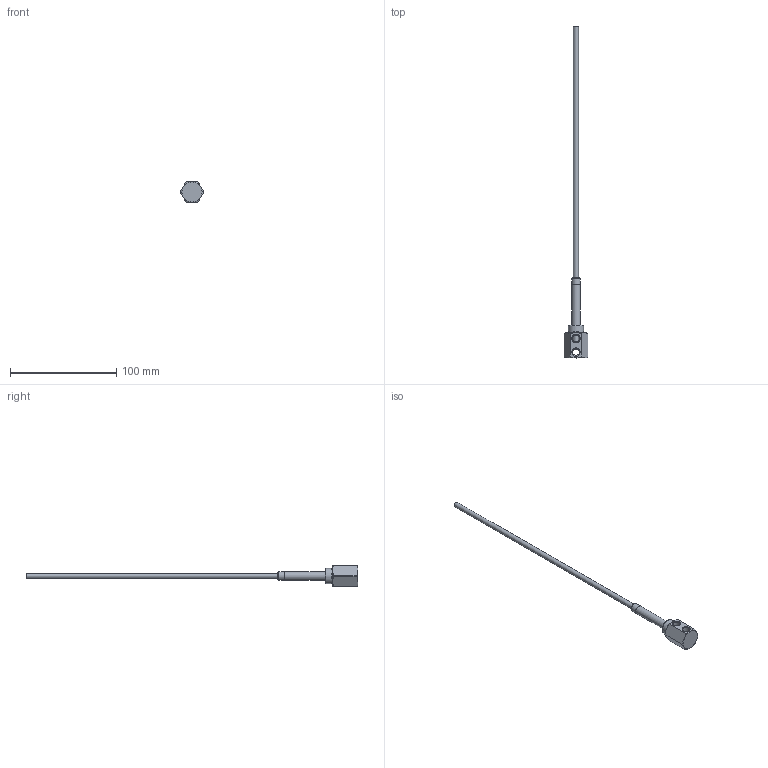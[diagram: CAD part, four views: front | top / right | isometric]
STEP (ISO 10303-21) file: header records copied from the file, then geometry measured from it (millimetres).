
FILE_DESCRIPTION(/* description */ (''),/* implementation_level */ '2;1');
FILE_NAME(/* name */ 'C:/Users/drich/Desktop/16N v1.step',/* time_stamp */ '2020-01-15T19:39:55-06:00',/* author */ (''),/* organization */ (''),/* preprocessor_version */ 'ST-DEVELOPER v18',/* originating_system */ 'Autodesk Translation Framework v8.12.0.6',/* authorisation */ '');
FILE_SCHEMA (('AUTOMOTIVE_DESIGN { 1 0 10303 214 3 1 1 }'));
Length unit declared in the file: inch
Products named in the file (4): 16N; 16H; SSPN16-2; 187T-12
Assembly tree (3 placements, depth 2):
  16N
    16H
    SSPN16-2
    187T-12
Bounding box: 22 x 312.88 x 19.05 mm (x, y, z)
Volume: 11383.5 mm3; surface area: 12896 mm2
Topology: 3 solids, 3 shells, 49 faces, 131 edges, 90 vertices
Faces by surface type: cylinder 18, plane 15, cone 14, torus 2
Full cylindrical faces by diameter (mm): 3.124 x1, 4.064 x1, 4.727 x1, 5.309 x1, 6.697 x4, 7.874 x2, 7.925 x1, 14.275 x1
Entity records: 1822 total; most frequent: CARTESIAN_POINT 431, DIRECTION 293, ORIENTED_EDGE 262, EDGE_CURVE 131, AXIS2_PLACEMENT_3D 129, VERTEX_POINT 90, CIRCLE 73, EDGE_LOOP 61
